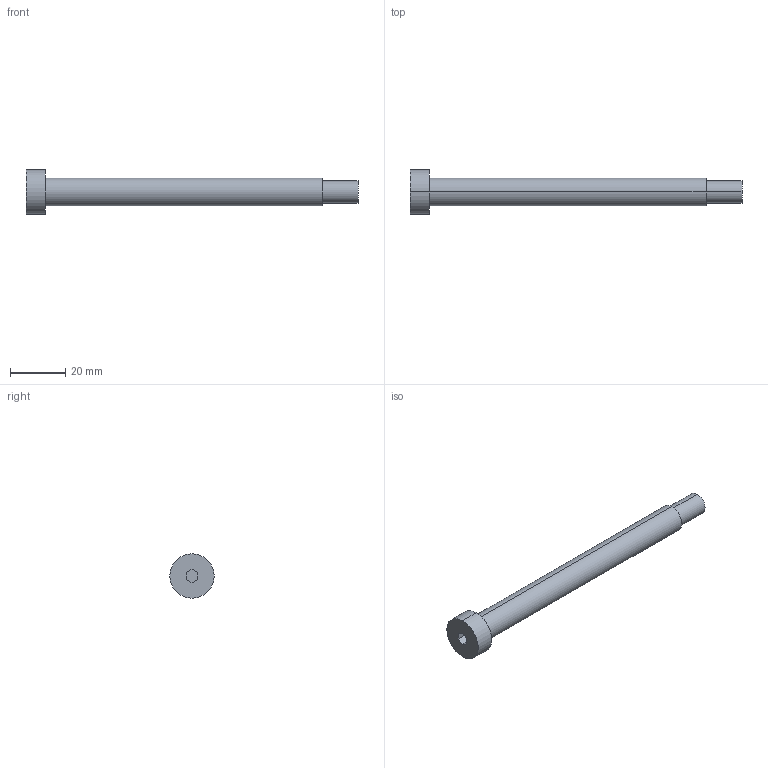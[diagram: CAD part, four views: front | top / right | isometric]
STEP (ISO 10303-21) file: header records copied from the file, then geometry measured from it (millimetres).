
FILE_DESCRIPTION (( 'STEP AP214' ), '1' );
FILE_NAME ('TPM-8x100.STEP', '2020-07-06T13:18:03', ( '' ), ( '' ), 'SwSTEP 2.0', 'SolidWorks 2018', '' );
FILE_SCHEMA (( 'AUTOMOTIVE_DESIGN' ));
Length unit declared in the file: millimetre
Products named in the file (1): TPM-8x100
Bounding box: 120 x 16 x 16 mm (x, y, z)
Volume: 9833.7 mm3; surface area: 4297.3 mm2
Topology: 1 solids, 1 shells, 17 faces, 36 edges, 24 vertices
Faces by surface type: plane 11, cylinder 6
Entity records: 496 total; most frequent: DIRECTION 84, CARTESIAN_POINT 78, ORIENTED_EDGE 72, EDGE_CURVE 36, AXIS2_PLACEMENT_3D 30, LINE 24, VERTEX_POINT 24, VECTOR 24
